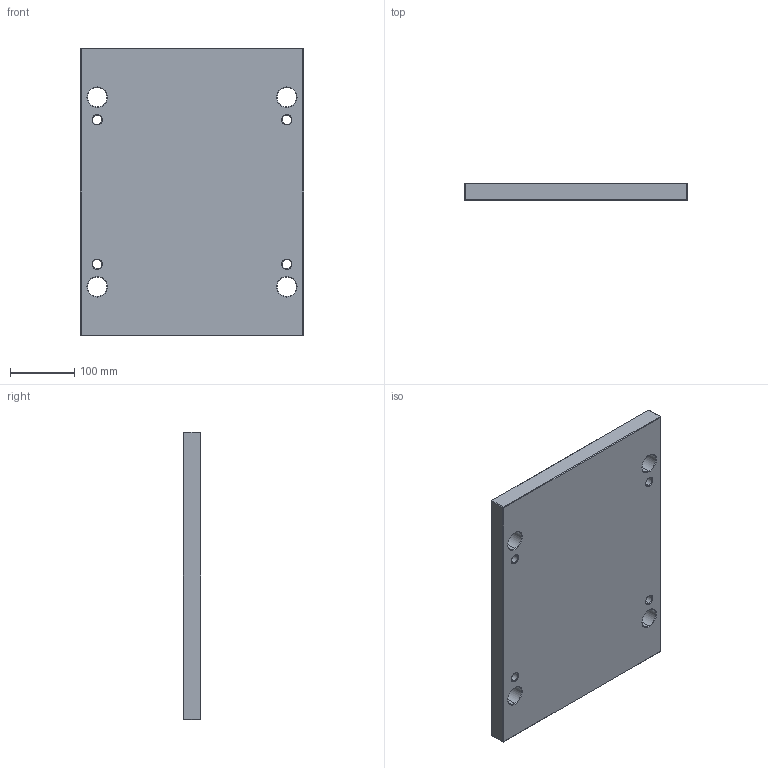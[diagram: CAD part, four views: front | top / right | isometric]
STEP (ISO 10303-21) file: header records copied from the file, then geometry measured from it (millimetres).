
FILE_DESCRIPTION (( 'STEP AP214' ), '1' );
FILE_NAME ('PBAV-EU-346x346x27.STEP', '2020-03-17T19:14:47', ( 'August' ), ( '' ), 'SwSTEP 2.0', 'SolidWorks 2018', '' );
FILE_SCHEMA (( 'AUTOMOTIVE_DESIGN' ));
Length unit declared in the file: millimetre
Products named in the file (1): PBAV-EU-346x346x27
Bounding box: 346 x 27 x 446 mm (x, y, z)
Volume: 4062353.6 mm3; surface area: 357904.9 mm2
Topology: 1 solids, 1 shells, 86 faces, 184 edges, 104 vertices
Faces by surface type: cone 32, plane 30, cylinder 24
Entity records: 2346 total; most frequent: DIRECTION 438, CARTESIAN_POINT 375, ORIENTED_EDGE 368, EDGE_CURVE 184, AXIS2_PLACEMENT_3D 167, EDGE_LOOP 106, VERTEX_POINT 104, LINE 104
